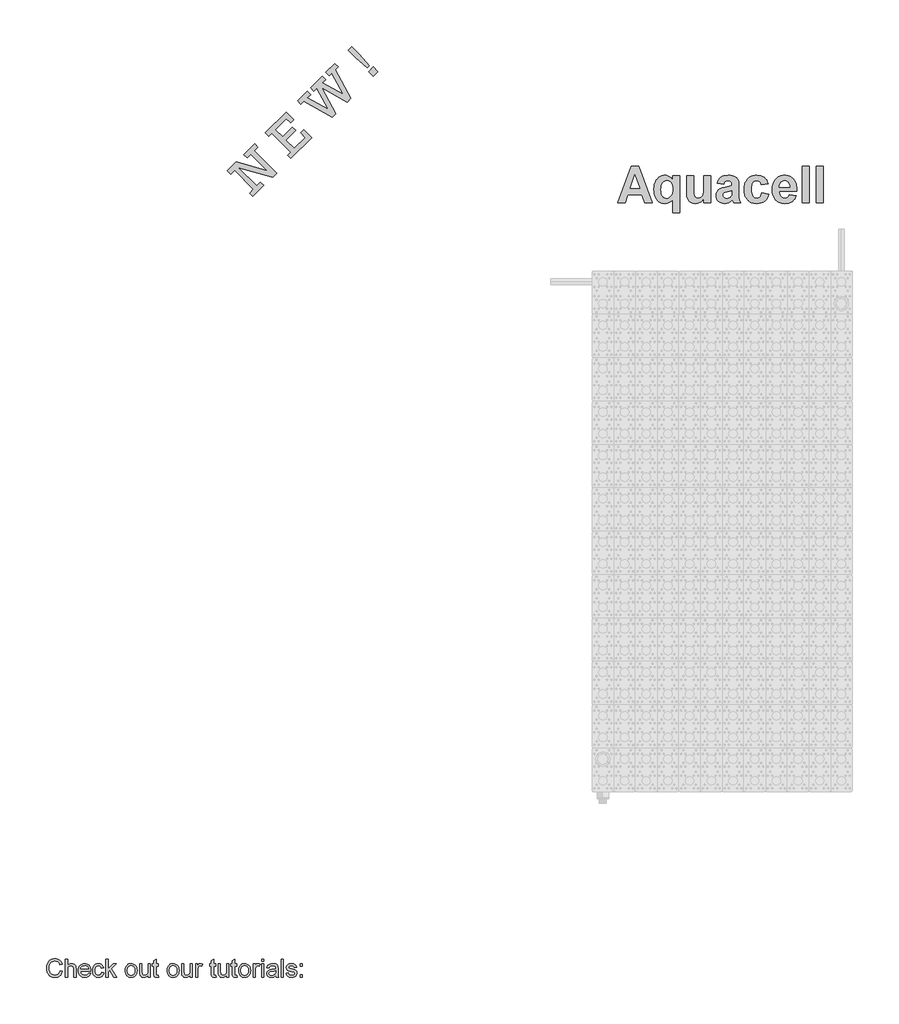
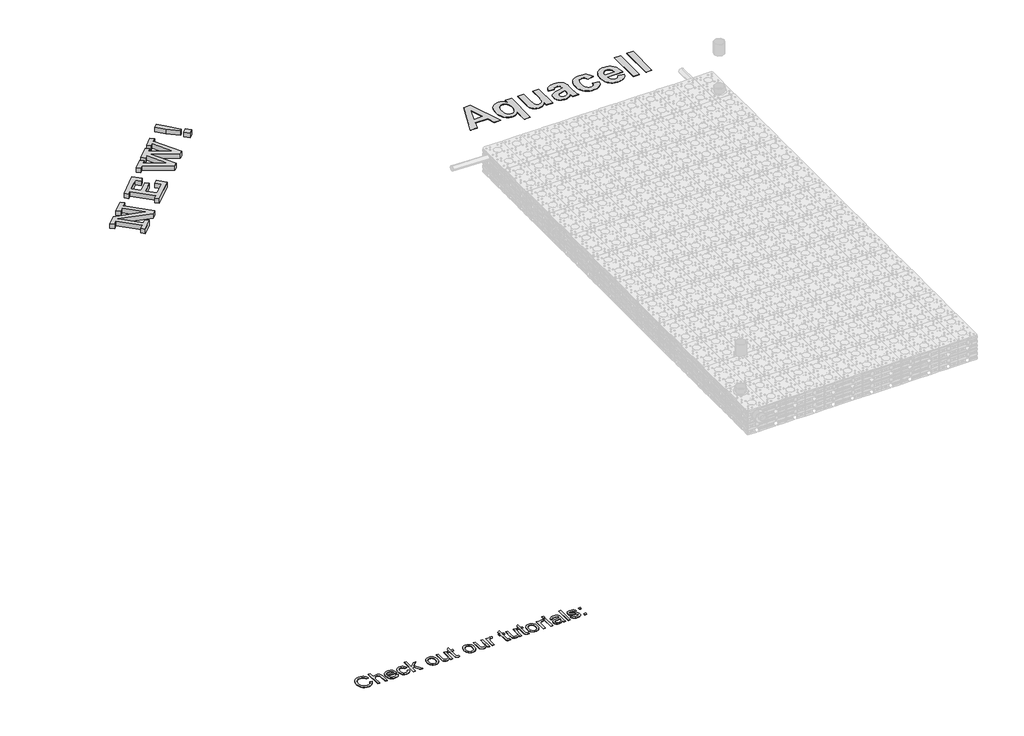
# One storey, part 6 of 6: 3 proxies.
"""IFC4 building model written with IfcOpenShell, lengths in millimetres."""

from ifc_helpers import new_model, si_unit, frame, origin, place, context, project, spatial, polyline, outline, extrude, element, save

model = new_model("IFC4")

# Units and contexts
model_context = context("Model", 3, world=origin())
ifc_project = project(units=[si_unit("LENGTHUNIT", "METRE", prefix="MILLI")], contexts=[model_context])

# Site, building, storey
site = spatial("IfcSite", under=ifc_project)
building = spatial("IfcBuilding", under=site)
storey = spatial("IfcBuildingStorey", under=building, Name="Aquacell", Elevation=-2300.0)

# Proxies
placement = place(None, origin())
element("IfcBuildingElementProxy", 1, Name="Rockwell", ObjectType="Rockwell", at=placement, inside=storey, context=model_context, shape_type="SweptSolid", body=[
    extrude(outline(polyline([(-6881.2842093, 12223.4476129), (-7400.6630269, 12742.8264305), (-7504.5387905, 12638.950667), (-7596.8728025, 12731.284679), (-7349.4465046, 12978.7109769), (-6492.8321352, 12735.2521561), (-6950.5347183, 13192.9547391), (-7054.4104818, 13089.0789756), (-7146.7444939, 13181.4129876), (-6846.6589548, 13481.4985267), (-6754.3249427, 13389.1645147), (-6858.2007063, 13285.2887512), (-6234.9461251, 12662.03417), (-6346.396163, 12550.584132), (-7293.1804661, 12820.0118937), (-6788.9501973, 12315.7816249), (-6685.0744337, 12419.6573884), (-6592.7404217, 12327.3233764), (-6892.8259608, 12027.2378373), (-6985.1599728, 12119.5718493), (-6881.2842093, 12223.4476129)])), frame((0.0, 0.0, -2300.0), z_axis=(0.0, 0.0, 1.0), x_axis=(1.0, 0.0, 0.0)), (0.0, 0.0, 1.0), 150.0),
    extrude(outline(polyline([(-5854.0683255, 13250.6634967), (-6373.4471431, 13770.0423143), (-6454.2394037, 13689.2500538), (-6546.5734157, 13781.5840658), (-5969.4858405, 14358.671641), (-5761.7343135, 14150.9201139), (-5854.0683255, 14058.5861019), (-5969.4858405, 14174.0036169), (-6269.5713796, 13873.9180778), (-6073.361604, 13677.7083023), (-5807.9013195, 13943.1685869), (-5715.5673074, 13850.8345748), (-5981.027592, 13585.3742903), (-5750.1925619, 13354.5392602), (-5450.1070229, 13654.6247993), (-5577.0662894, 13781.5840658), (-5484.7322774, 13873.9180778), (-5265.4389988, 13654.6247993), (-5842.526574, 13077.5372241), (-5934.860586, 13169.8712361), (-5854.0683255, 13250.6634967)])), frame((0.0, 0.0, -2300.0), z_axis=(0.0, 0.0, 1.0), x_axis=(1.0, 0.0, 0.0)), (0.0, 0.0, 1.0), 150.0),
    extrude(outline(polyline([(-4700.2538549, 14219.8099432), (-5484.7322774, 14658.7571801), (-5565.5245379, 14577.9649196), (-5657.8585499, 14670.2989316), (-5392.3982653, 14935.7592162), (-5300.0642533, 14843.4252041), (-5388.0701085, 14755.4193489), (-4807.5560759, 14431.7092872), (-5127.6593402, 15015.8301172), (-5207.7302413, 14935.7592162), (-5300.0642533, 15028.0932282), (-4976.8952112, 15351.2622703), (-4884.5611992, 15258.9282583), (-4970.0422963, 15173.4471612), (-4392.0530218, 14847.2123413), (-4712.1562861, 15431.3331713), (-4780.6854357, 15362.8040218), (-4873.0194477, 15455.1380338), (-4630.6426661, 15697.5148154), (-4538.3086541, 15605.1808034), (-4619.1009146, 15524.3885428), (-4184.8425143, 14735.2212838), (-4284.9311406, 14635.1326575), (-4986.8139039, 15026.4701694), (-4602.5096468, 14317.5541513), (-4700.2538549, 14219.8099432)])), frame((0.0, 0.0, -2300.0), z_axis=(0.0, 0.0, 1.0), x_axis=(1.0, 0.0, 0.0)), (0.0, 0.0, 1.0), 150.0),
    extrude(outline(polyline([(-3675.3823893, 15637.1009599), (-3727.6809508, 15584.8023984), (-4049.407274, 15854.9515195), (-4261.306618, 16066.8508635), (-4157.4308545, 16170.726627), (-3945.5315105, 15958.827283), (-3675.3823893, 15637.1009599)])), frame((0.0, 0.0, -2300.0), z_axis=(0.0, 0.0, 1.0), x_axis=(1.0, 0.0, 0.0)), (0.0, 0.0, 1.0), 150.0),
    extrude(outline(polyline([(-3568.8015278, 15351.2622703), (-3695.7607943, 15478.2215368), (-3568.8015278, 15605.1808034), (-3441.8422613, 15478.2215368), (-3568.8015278, 15351.2622703)])), frame((0.0, 0.0, -2300.0), z_axis=(0.0, 0.0, 1.0), x_axis=(1.0, 0.0, 0.0)), (0.0, 0.0, 1.0), 150.0),
])
element("IfcBuildingElementProxy", 2, Name="Arial", ObjectType="Arial", at=placement, inside=storey, context=model_context, shape_type="SweptSolid", body=[
    extrude(outline(polyline([(4150.7971549, 11845.0603381), (3946.5934505, 11845.0603381), (3866.6326444, 12071.7846492), (3481.2519236, 12071.7846492), (3402.3032796, 11845.0603381), (3195.3161295, 11845.0603381), (3567.7917834, 12865.319738), (3774.7789335, 12865.319738), (4150.7971549, 11845.0603381)]), holes=[polyline([(3804.3846751, 12249.9251793), (3673.0566422, 12622.4008333), (3543.499893, 12249.9251793), (3804.3846751, 12249.9251793)])]), frame((0.0, 0.0, -2300.0), z_axis=(0.0, 0.0, 1.0), x_axis=(1.0, 0.0, 0.0)), (0.0, 0.0, 1.0), 10.0),
    extrude(outline(polyline([(4717.6079326, 11569.752246), (4717.6079326, 11934.6366842), (4697.4595807, 11911.4913836), (4674.970604, 11890.8923033), (4650.1410024, 11872.8394433), (4622.970776, 11857.3328036), (4594.0767109, 11844.8784652), (4564.0755936, 11835.9825092), (4532.9674239, 11830.6449356), (4500.752202, 11828.8657444), (4440.9081177, 11834.8121968), (4413.0736598, 11842.2452622), (4386.6309249, 11852.6515538), (4361.5799128, 11866.0310716), (4337.9206237, 11882.3838156), (4294.777214, 11924.0089821), (4272.4187113, 11953.0809663), (4253.0413423, 11984.6280031), (4236.645107, 12018.6500925), (4223.2300054, 12055.1472346), (4212.7960374, 12094.1194293), (4205.3432032, 12135.5666767), (4199.3809358, 12225.8863294), (4204.8133996, 12310.6549055), (4211.6039793, 12349.3384759), (4221.110791, 12385.5549011), (4233.3338345, 12419.3041813), (4248.2731099, 12450.5863163), (4265.9286172, 12479.4013061), (4286.3003564, 12505.7491509), (4332.3774547, 12549.6991272), (4357.3790447, 12566.9651893), (4383.6893288, 12581.0919674), (4411.3083068, 12592.0794615), (4440.2359788, 12599.9276716), (4470.4723447, 12604.6365976), (4502.0174046, 12606.2062396), (4536.4862688, 12604.2847131), (4568.5354329, 12598.5201336), (4598.1648969, 12588.9125012), (4625.374661, 12575.4618157), (4650.639176, 12558.0890021), (4674.4328929, 12536.7149852), (4696.7558118, 12511.339765), (4717.6079326, 12481.9633415), (4717.6079326, 12590.011646), (4911.9430564, 12590.011646), (4911.9430564, 11569.752246), (4717.6079326, 11569.752246)]), holes=[polyline([(4717.6079326, 12226.1393699), (4714.7533192, 12281.6738578), (4706.1894789, 12329.6013149), (4691.9164117, 12369.9217411), (4671.9341177, 12402.6351366), (4647.6659498, 12427.9312817), (4620.5352609, 12445.9999567), (4590.5420511, 12456.8411618), (4557.6863203, 12460.4548968), (4524.1900807, 12456.7699941), (4493.540547, 12445.7152861), (4465.7377193, 12427.2907728), (4440.7815974, 12401.4964543), (4420.1904246, 12367.7155441), (4405.4824441, 12325.331256), (4396.6576557, 12274.34359), (4393.7160596, 12214.7525462), (4396.5469505, 12155.5410632), (4405.0396231, 12105.1859986), (4419.1940775, 12063.6873523), (4439.0103137, 12031.0451245), (4462.9859035, 12006.3578582), (4489.6184189, 11988.7240966), (4518.9078597, 11978.1438396), (4550.8542261, 11974.6170873), (4583.1010781, 11978.5708455), (4613.2919759, 11990.4321201), (4641.4269193, 12010.2009112), (4667.5059085, 12037.8772187), (4689.425544, 12073.3661524), (4705.0824266, 12116.5728222), (4714.4765561, 12167.497228), (4717.6079326, 12226.1393699)])]), frame((0.0, 0.0, -2300.0), z_axis=(0.0, 0.0, 1.0), x_axis=(1.0, 0.0, 0.0)), (0.0, 0.0, 1.0), 10.0),
    extrude(outline(polyline([(5575.9213961, 11845.0603381), (5575.9213961, 11954.3738452), (5555.0534602, 11926.7054452), (5531.1648531, 11902.1526067), (5504.2555747, 11880.7153296), (5474.325625, 11862.3936141), (5442.4346112, 11847.7251711), (5409.6421406, 11837.2477118), (5375.948213, 11830.9612363), (5341.3528287, 11828.8657444), (5306.7020917, 11830.9216987), (5273.8542684, 11837.0895615), (5242.8093589, 11847.3693329), (5213.5673631, 11861.7610128), (5187.1878883, 11879.8771329), (5164.7305417, 11901.330225), (5146.1953232, 11926.120289), (5131.5822328, 11954.2473249), (5120.5117098, 11986.8974603), (5112.6041934, 12025.2568225), (5107.8596835, 12069.3254115), (5106.2781802, 12119.1032275), (5106.2781802, 12590.011646), (5300.613304, 12590.011646), (5300.613304, 12245.6234904), (5303.2385995, 12118.1226954), (5311.1144858, 12051.9209679), (5325.9806167, 12020.0378616), (5349.5766458, 11995.4929306), (5381.3016017, 11979.8360481), (5420.5545132, 11974.6170873), (5444.4589354, 11976.3567409), (5467.0823399, 11981.5757017), (5488.4247268, 11990.2739698), (5508.4860959, 12002.4515451), (5526.3728981, 12017.2148783), (5541.1915839, 12033.67042), (5552.9421533, 12051.8181702), (5561.6246064, 12071.6581289), (5567.8794519, 12099.8167949), (5572.3471986, 12142.920667), (5575.9213961, 12273.9640293), (5575.9213961, 12590.011646), (5770.2565199, 12590.011646), (5770.2565199, 11845.0603381), (5575.9213961, 11845.0603381)])), frame((0.0, 0.0, -2300.0), z_axis=(0.0, 0.0, 1.0), x_axis=(1.0, 0.0, 0.0)), (0.0, 0.0, 1.0), 10.0),
    extrude(outline(polyline([(6126.5375802, 12363.2873349), (5948.39705, 12395.6765222), (5965.1372623, 12445.8418064), (5987.0173603, 12489.0484762), (6014.0373439, 12525.2965315), (6046.1972132, 12554.5859724), (6085.1259166, 12577.1698393), (6132.4524025, 12593.3011728), (6188.1766707, 12602.9799729), (6252.2987215, 12606.2062396), (6310.4505973, 12604.2530831), (6360.6633266, 12598.3936134), (6402.9369095, 12588.6278306), (6437.2713458, 12574.9557347), (6465.3904743, 12558.28669), (6489.0181334, 12539.5300611), (6508.1543231, 12518.6858478), (6522.7990435, 12495.7540501), (6533.6481561, 12466.7571874), (6541.3975222, 12427.7177787), (6546.0471418, 12378.6358243), (6547.5970151, 12319.5113239), (6547.5970151, 12089.7505265), (6550.1590504, 12004.4758693), (6557.8451564, 11945.0113457), (6572.5531369, 11896.7438654), (6596.180796, 11845.0603381), (6401.8456722, 11845.0603381), (6383.6267544, 11906.8022263), (6376.7946602, 11931.3471573), (6326.5028557, 11886.5906143), (6272.7950041, 11854.5493578), (6244.6284305, 11843.3127769), (6215.5445851, 11835.2866477), (6185.5434678, 11830.4709702), (6154.6250785, 11828.8657444), (6102.142892, 11832.76415), (6055.5280826, 11844.4593668), (6014.7806505, 11863.9513948), (5979.9005955, 11891.240234), (5951.9475249, 11924.4755256), (5931.9810459, 11961.8069106), (5920.0011585, 12003.2343892), (5916.0078627, 12048.7579613), (5917.7870539, 12079.407495), (5923.1246275, 12108.3490051), (5932.0205835, 12135.5824917), (5944.4749219, 12161.1079548), (5960.1397119, 12184.340238), (5978.6670229, 12204.6941853), (6000.0568549, 12222.1697966), (6024.3092078, 12236.767072), (6086.999998, 12261.3752631), (6172.3379153, 12282.5674071), (6282.853365, 12307.5551591), (6353.2618913, 12330.8981476), (6353.2618913, 12351.3944301), (6351.7515556, 12378.754437), (6347.2205487, 12401.876015), (6339.6688705, 12420.7591643), (6329.0965211, 12435.4038847), (6314.3490029, 12446.3637025), (6294.2718187, 12454.1921437), (6268.8649684, 12458.8892085), (6238.128452, 12460.4548968), (6197.8317483, 12455.0777856), (6181.4315592, 12448.3563966), (6167.5301453, 12438.9464521), (6155.4790903, 12426.1520905), (6144.6299778, 12409.2774504), (6126.5375802, 12363.2873349)]), holes=[polyline([(6353.2618913, 12185.1468047), (6243.6953436, 12158.1979887), (6181.7004148, 12142.7308866), (6145.5156196, 12127.4535648), (6130.1275926, 12114.4694228), (6119.1361448, 12099.8088874), (6112.5412761, 12083.4719584), (6110.3429865, 12065.458636), (6112.1063627, 12047.6113714), (6117.3964912, 12031.0134944), (6126.213372, 12015.665005), (6138.5570051, 12001.5659033), (6153.6208239, 11989.7757963), (6170.5982617, 11981.3542913), (6189.4893185, 11976.3013883), (6210.2939942, 11974.6170873), (6234.4119193, 11976.5781513), (6257.9288732, 11982.4613436), (6280.8448558, 11992.2666639), (6303.1598672, 12005.9941125), (6330.3617237, 12032.4368474), (6346.1767565, 12064.1934334), (6351.4906076, 12096.8989213), (6353.2618913, 12149.9741716), (6353.2618913, 12185.1468047)])]), frame((0.0, 0.0, -2300.0), z_axis=(0.0, 0.0, 1.0), x_axis=(1.0, 0.0, 0.0)), (0.0, 0.0, 1.0), 10.0),
    extrude(outline(polyline([(7357.3266976, 12379.4819285), (7162.9915738, 12347.0927412), (7156.9897688, 12373.5591987), (7148.0938128, 12396.5305339), (7136.3037058, 12416.0067469), (7121.6194478, 12431.9878376), (7104.2782643, 12444.442176), (7084.5173807, 12453.338132), (7062.3367971, 12458.6757056), (7037.7365135, 12460.4548968), (7005.1891759, 12457.1179248), (6976.1211455, 12447.107009), (6950.5324223, 12430.4221494), (6928.4230064, 12407.0633458), (6910.5994643, 12375.891916), (6897.8683629, 12335.7691777), (6890.229702, 12286.6951307), (6887.6834817, 12228.6697751), (6890.3324997, 12164.1918862), (6898.2795537, 12109.9305084), (6911.5246438, 12065.8856419), (6930.0677698, 12032.0572866), (6953.0707351, 12006.9271994), (6979.6953429, 11988.9771371), (7009.9415933, 11978.2070997), (7043.8094861, 11974.6170873), (7069.2954116, 11976.665134), (7092.361637, 11982.8092743), (7113.0081624, 11993.0495081), (7131.2349878, 12007.3858353), (7146.994668, 12026.7355281), (7160.2397581, 12052.0158581), (7170.9702579, 12083.2268254), (7179.1861674, 12120.3684301), (7373.5212912, 12087.9792428), (7355.6107665, 12027.7635052), (7330.9788528, 11975.4078389), (7299.6255502, 11930.9122439), (7261.5508586, 11894.2767203), (7216.5966277, 11865.6594184), (7164.6047071, 11845.2184884), (7105.575097, 11832.9539304), (7039.5077972, 11828.8657444), (7000.9724927, 11830.474924), (6964.4417437, 11835.3024628), (6929.9155501, 11843.3483607), (6897.3939119, 11854.6126179), (6866.8768291, 11869.0952342), (6838.3643017, 11886.7962098), (6811.8563298, 11907.7155445), (6787.3529132, 11931.8532384), (6765.3205956, 11958.8336845), (6746.2259203, 11988.2812756), (6730.0688873, 12020.196012), (6716.8494968, 12054.5778934), (6706.5677485, 12091.42692), (6699.2236426, 12130.7430917), (6693.3483579, 12216.7768704), (6699.184105, 12303.7832737), (6706.478789, 12343.4612143), (6716.6913464, 12380.5889808), (6729.8217775, 12415.1665733), (6745.8700821, 12447.1939917), (6764.8362602, 12476.6712361), (6786.7203119, 12503.5983064), (6811.0952313, 12527.6470407), (6837.5340125, 12548.4892772), (6866.0366555, 12566.1250157), (6896.6031603, 12580.5542563), (6929.2335268, 12591.776999), (6963.9277551, 12599.7932438), (7000.6858453, 12604.6029907), (7039.5077972, 12606.2062396), (7101.3287606, 12602.7032098), (7156.4757802, 12592.1941205), (7204.948856, 12574.6789716), (7246.7479878, 12550.1577631), (7282.5057771, 12518.4723448), (7312.8548252, 12479.4645663), (7337.795132, 12433.1344275), (7357.3266976, 12379.4819285)])), frame((0.0, 0.0, -2300.0), z_axis=(0.0, 0.0, 1.0), x_axis=(1.0, 0.0, 0.0)), (0.0, 0.0, 1.0), 10.0),
    extrude(outline(polyline([(7940.332069, 12071.7846492), (8134.6671928, 12039.3954619), (8113.6648291, 11990.9777388), (8087.3486145, 11948.7120634), (8055.7185487, 11912.5984359), (8018.774632, 11882.6368561), (7976.6908295, 11859.1119948), (7929.6411068, 11842.3085223), (7877.6254637, 11832.2264389), (7820.6439003, 11828.8657444), (7775.1084669, 11830.8465773), (7732.6332424, 11836.7890759), (7693.2182268, 11846.6932402), (7656.86342, 11860.5590703), (7623.568822, 11878.3865661), (7593.334433, 11900.1757276), (7566.1602528, 11925.9265548), (7542.0462814, 11955.6390478), (7510.8274065, 12009.7106452), (7488.5282102, 12070.4561864), (7475.1486924, 12137.8756715), (7470.6888531, 12211.9691004), (7476.6036754, 12299.331342), (7483.9972033, 12339.2642999), (7494.3481423, 12376.6984827), (7507.6564924, 12411.6338903), (7523.9222537, 12444.0705227), (7543.1454262, 12474.0083799), (7565.3260098, 12501.4474619), (7589.7681431, 12526.0003005), (7615.7759646, 12547.2794272), (7643.3494744, 12565.2848421), (7672.4886724, 12580.0165452), (7703.1935587, 12591.4745365), (7735.4641333, 12599.658816), (7769.3003961, 12604.5693837), (7804.7023472, 12606.2062396), (7844.2438831, 12604.5258924), (7881.642482, 12599.4848506), (7916.898144, 12591.0831144), (7950.0108691, 12579.3206837), (7980.9806572, 12564.1975586), (8009.8075083, 12545.7137389), (8036.4914225, 12523.8692248), (8061.0323998, 12498.6640162), (8082.9718041, 12469.9874078), (8101.8509996, 12437.7286945), (8117.6699862, 12401.8878763), (8130.428764, 12362.4649531), (8140.1273329, 12319.459925), (8146.7656929, 12272.872792), (8150.3438441, 12222.703554), (8150.8617864, 12168.9522111), (7665.0239769, 12168.9522111), (7668.6456195, 12125.4608707), (7677.4862228, 12087.093601), (7691.545787, 12053.8504019), (7710.8243121, 12025.7312735), (7734.0565954, 12003.368817), (7759.9774342, 11987.3956338), (7788.5868287, 11977.8117239), (7819.8847787, 11974.6170873), (7860.6875635, 11980.3737592), (7878.4794755, 11987.5695992), (7894.5317338, 11997.6437751), (7908.7810784, 12010.9125877), (7921.1642492, 12027.6923375), (7940.332069, 12071.7846492)]), holes=[polyline([(7956.5266626, 12282.3143666), (7953.0631704, 12323.3464694), (7944.697018, 12359.1437962), (7931.4282055, 12389.7063473), (7913.2567327, 12415.0341224), (7891.5268776, 12434.9057112), (7867.5829178, 12449.0997032), (7841.4248535, 12457.6160984), (7813.0526845, 12460.4548968), (7782.9092319, 12457.4658555), (7755.4859649, 12448.4987319), (7730.7828836, 12433.5535259), (7708.7999879, 12412.6302374), (7690.8973707, 12386.456358), (7678.1820843, 12356.0124197), (7670.6541286, 12321.2984226), (7668.3135038, 12282.3143666), (7956.5266626, 12282.3143666)])]), frame((0.0, 0.0, -2300.0), z_axis=(0.0, 0.0, 1.0), x_axis=(1.0, 0.0, 0.0)), (0.0, 0.0, 1.0), 10.0),
    extrude(outline(polyline([(8296.6131293, 11845.0603381), (8296.6131293, 12865.319738), (8490.9482531, 12865.319738), (8490.9482531, 11845.0603381), (8296.6131293, 11845.0603381)])), frame((0.0, 0.0, -2300.0), z_axis=(0.0, 0.0, 1.0), x_axis=(1.0, 0.0, 0.0)), (0.0, 0.0, 1.0), 10.0),
    extrude(outline(polyline([(8685.2833769, 11845.0603381), (8685.2833769, 12865.319738), (8879.6185007, 12865.319738), (8879.6185007, 11845.0603381), (8685.2833769, 11845.0603381)])), frame((0.0, 0.0, -2300.0), z_axis=(0.0, 0.0, 1.0), x_axis=(1.0, 0.0, 0.0)), (0.0, 0.0, 1.0), 10.0),
])
element("IfcBuildingElementProxy", 3, Name="Arial 500", ObjectType="Arial 500", at=placement, inside=storey, context=model_context, shape_type="SweptSolid", body=[
    extrude(outline(polyline([(-12225.5004482, -9392.8896774), (-12162.7152543, -9409.0764852), (-12175.1389359, -9448.121794), (-12191.6859615, -9482.2390169), (-12212.3563311, -9511.428154), (-12237.1500447, -9535.6892052), (-12265.5076152, -9554.7615873), (-12296.8695552, -9568.3847175), (-12331.235865, -9576.5585956), (-12368.6065443, -9579.2832216), (-12406.8930965, -9577.2215496), (-12441.4318509, -9571.0365335), (-12472.2228075, -9560.7281735), (-12499.2659663, -9546.2964694), (-12522.9330413, -9527.9560191), (-12543.5957467, -9505.9214204), (-12561.2540824, -9480.1926733), (-12575.9080486, -9450.7697779), (-12587.4158572, -9418.9249927), (-12595.6357206, -9385.9305763), (-12600.5676386, -9351.7865286), (-12602.2116112, -9316.4928497), (-12600.3530407, -9278.6239968), (-12594.7773293, -9243.2536758), (-12585.4844768, -9210.3818867), (-12572.4744833, -9180.0086295), (-12556.0385887, -9152.6359098), (-12536.468033, -9128.7657332), (-12513.7628161, -9108.3980999), (-12487.9229381, -9091.5330097), (-12459.8259507, -9078.3084183), (-12430.3494058, -9068.8622817), (-12399.4933035, -9063.1945997), (-12367.2576437, -9061.3053724), (-12331.346996, -9063.7502548), (-12298.4177253, -9071.0849021), (-12268.4698316, -9083.3093142), (-12241.503315, -9100.4234912), (-12217.9626994, -9121.9752448), (-12198.292509, -9147.5123866), (-12182.4927437, -9177.0349167), (-12170.5634036, -9210.5428351), (-12233.3485974, -9225.5033696), (-12243.235426, -9200.8131227), (-12255.1149488, -9179.7173896), (-12268.9871657, -9162.2161701), (-12284.8520767, -9148.3094642), (-12302.8016524, -9137.7136964), (-12322.9278632, -9130.1452907), (-12345.2307092, -9125.6042474), (-12369.7101903, -9124.0905662), (-12397.8761555, -9125.7690278), (-12423.6355594, -9130.8044126), (-12446.9884019, -9139.1967207), (-12467.934683, -9150.9459519), (-12486.2099875, -9165.5232759), (-12501.5499003, -9182.3998625), (-12513.9544213, -9201.5757115), (-12523.4235506, -9223.0508229), (-12535.4257007, -9269.0054155), (-12539.4264174, -9316.3702224), (-12534.6899367, -9374.3729503), (-12520.4804946, -9424.527529), (-12509.6892895, -9446.1827493), (-12496.2615966, -9464.9179063), (-12480.1974162, -9480.733), (-12461.4967481, -9493.6280304), (-12419.8187837, -9510.7805284), (-12374.8605382, -9516.4980277), (-12347.5644606, -9514.5513189), (-12322.4526823, -9508.7111922), (-12299.5252034, -9498.9776477), (-12278.7820238, -9485.3506855), (-12260.7136529, -9467.8916191), (-12245.8106, -9446.6617623), (-12234.0728651, -9421.6611151), (-12225.5004482, -9392.8896774)])), frame((0.0, 0.0, -2300.0), z_axis=(0.0, 0.0, 1.0), x_axis=(1.0, 0.0, 0.0)), (0.0, 0.0, 1.0), 10.0),
    extrude(outline(polyline([(-12084.233762, -9571.4350724), (-12084.233762, -9069.1535216), (-12021.4485682, -9069.1535216), (-12021.4485682, -9253.8302832), (-11998.3869656, -9227.9712446), (-11972.489606, -9209.5005028), (-11943.7564893, -9198.4180577), (-11912.1876156, -9194.7239093), (-11874.2651133, -9198.7552828), (-11841.6768999, -9210.8494034), (-11816.0171307, -9230.0559093), (-11798.8799611, -9255.4244385), (-11789.2230587, -9290.2812575), (-11786.0040913, -9337.9526328), (-11786.0040913, -9571.4350724), (-11848.7892851, -9571.4350724), (-11848.7892851, -9344.4518813), (-11853.7863489, -9305.1498215), (-11860.0326786, -9290.1433018), (-11868.7775402, -9278.2331222), (-11879.814, -9269.1663639), (-11892.9351245, -9262.6901079), (-11925.4313674, -9257.5091031), (-11951.9648563, -9261.0039821), (-11976.8735331, -9271.488619), (-11997.5055817, -9287.9513382), (-12011.209186, -9309.3804645), (-12018.8887226, -9337.8606623), (-12021.4485682, -9375.4765963), (-12021.4485682, -9571.4350724), (-12084.233762, -9571.4350724)])), frame((0.0, 0.0, -2300.0), z_axis=(0.0, 0.0, 1.0), x_axis=(1.0, 0.0, 0.0)), (0.0, 0.0, 1.0), 10.0),
    extrude(outline(polyline([(-11441.4212891, -9461.5609831), (-11379.8623686, -9469.4091324), (-11389.300841, -9494.0648902), (-11402.0425872, -9515.7929206), (-11418.0876072, -9534.5932234), (-11437.4359008, -9550.4657986), (-11459.8881989, -9563.0734212), (-11485.2452318, -9572.0788659), (-11513.5069997, -9577.4821327), (-11544.6735024, -9579.2832216), (-11583.6306729, -9576.1753852), (-11618.341872, -9566.8518758), (-11648.8070997, -9551.3126936), (-11675.0263561, -9529.5578386), (-11696.1105929, -9502.1927831), (-11711.1707621, -9469.8229996), (-11720.2068636, -9432.4484882), (-11723.2188974, -9390.0692487), (-11720.1762068, -9346.2529703), (-11711.0481348, -9307.633025), (-11695.8346814, -9274.2094129), (-11674.5358467, -9245.982134), (-11648.3855682, -9223.5566607), (-11618.6177835, -9207.5384655), (-11585.2324924, -9197.9275483), (-11548.2296951, -9194.7239093), (-11512.4186821, -9197.9198841), (-11480.0335702, -9207.5078086), (-11451.0743594, -9223.4876828), (-11425.5410497, -9245.8595066), (-11404.6982354, -9274.0254719), (-11389.8105109, -9307.3877703), (-11380.8778762, -9345.9464019), (-11377.9003313, -9389.7013667), (-11378.2682133, -9406.6239385), (-11660.4337036, -9406.6239385), (-11656.7970368, -9431.6782352), (-11649.5658563, -9453.6208634), (-11638.7401622, -9472.451823), (-11624.3199544, -9488.1711141), (-11607.1023106, -9500.5641388), (-11587.8843085, -9509.4162993), (-11566.665948, -9514.7275956), (-11543.4472291, -9516.4980277), (-11510.0312812, -9513.2177466), (-11481.8883086, -9503.3769033), (-11459.0183112, -9486.362361), (-11441.4212891, -9461.5609831)]), holes=[polyline([(-11660.4337036, -9343.8387447), (-11440.6855251, -9343.8387447), (-11449.1774679, -9310.6680514), (-11465.8241281, -9286.9396628), (-11482.9459693, -9274.0637929), (-11502.4283867, -9264.866743), (-11524.2713801, -9259.3485131), (-11548.4749497, -9257.5091031), (-11590.7967076, -9263.3798866), (-11609.2099679, -9270.718366), (-11625.7914824, -9280.9922372), (-11639.7058524, -9293.7263191), (-11650.1176793, -9308.4454311), (-11657.026963, -9325.1495729), (-11660.4337036, -9343.8387447)])]), frame((0.0, 0.0, -2300.0), z_axis=(0.0, 0.0, 1.0), x_axis=(1.0, 0.0, 0.0)), (0.0, 0.0, 1.0), 10.0),
    extrude(outline(polyline([(-11079.6706605, -9438.0165354), (-11016.8854667, -9445.8646847), (-11023.7142762, -9475.4906816), (-11034.3905183, -9501.7061059), (-11048.9141929, -9524.5109575), (-11067.2853, -9543.9052364), (-11088.7297547, -9559.3831049), (-11112.4734718, -9570.4387253), (-11138.5164513, -9577.0720975), (-11166.8586934, -9579.2832216), (-11202.0718981, -9576.1983778), (-11233.6446039, -9566.9438463), (-11261.5768108, -9551.5196273), (-11285.8685188, -9529.9257206), (-11305.5310451, -9502.5683293), (-11319.5757066, -9469.8536564), (-11328.0025036, -9431.781702), (-11330.8114359, -9388.3524661), (-11326.0136416, -9332.4803881), (-11311.6202585, -9284.0579205), (-11300.7677396, -9263.1078073), (-11287.4013605, -9244.9551301), (-11271.521121, -9229.5998889), (-11253.1270213, -9217.0420837), (-11212.1235072, -9200.3034529), (-11167.7170847, -9194.7239093), (-11139.8615199, -9196.6399614), (-11114.6654353, -9202.3881175), (-11092.128831, -9211.9683778), (-11072.251707, -9225.3807422), (-11055.3712883, -9242.3186424), (-11041.8248003, -9262.4755101), (-11031.6122428, -9285.8513452), (-11024.7336159, -9312.4461478), (-11087.5188098, -9320.294297), (-11098.9078232, -9292.9024168), (-11116.642801, -9273.2667153), (-11139.7427247, -9261.4485062), (-11167.2265754, -9257.5091031), (-11188.559899, -9259.4481478), (-11207.8008938, -9265.2652819), (-11224.9495597, -9274.9605053), (-11240.0058968, -9288.5338181), (-11252.2647978, -9306.2994528), (-11261.0211557, -9328.5716419), (-11266.2749705, -9355.3503854), (-11268.0262421, -9386.6356834), (-11266.3132915, -9418.3923303), (-11261.1744399, -9445.4814743), (-11252.6096872, -9467.9031154), (-11240.6190334, -9485.6572538), (-11225.8616005, -9499.1500924), (-11208.9965103, -9508.7878343), (-11190.0237628, -9514.5704794), (-11168.943358, -9516.4980277), (-11136.4317867, -9511.684905), (-11109.7756705, -9497.2455367), (-11098.9959616, -9486.3240399), (-11090.3852236, -9472.8120408), (-11079.6706605, -9438.0165354)])), frame((0.0, 0.0, -2300.0), z_axis=(0.0, 0.0, 1.0), x_axis=(1.0, 0.0, 0.0)), (0.0, 0.0, 1.0), 10.0),
    extrude(outline(polyline([(-10961.9484221, -9571.4350724), (-10961.9484221, -9069.1535216), (-10899.1632282, -9069.1535216), (-10899.1632282, -9339.0562787), (-10758.3870514, -9202.5720585), (-10671.5669006, -9202.5720585), (-10814.05986, -9340.7730614), (-10663.7187513, -9571.4350724), (-10737.0498957, -9571.4350724), (-10859.0640908, -9384.4283915), (-10899.1632282, -9423.3012556), (-10899.1632282, -9571.4350724), (-10961.9484221, -9571.4350724)])), frame((0.0, 0.0, -2300.0), z_axis=(0.0, 0.0, 1.0), x_axis=(1.0, 0.0, 0.0)), (0.0, 0.0, 1.0), 10.0),
    extrude(outline(polyline([(-10428.2742744, -9387.0035654), (-10424.8790302, -9339.2325555), (-10414.6932974, -9298.0680931), (-10397.7170762, -9263.5101782), (-10373.9503665, -9235.5588108), (-10350.0227084, -9217.6935414), (-10323.6118468, -9204.9326347), (-10294.7177817, -9197.2760906), (-10263.3405132, -9194.7239093), (-10228.7021241, -9197.8317457), (-10197.3823372, -9207.1552551), (-10169.3811524, -9222.6944372), (-10144.6985698, -9244.4492923), (-10124.5531985, -9271.6840563), (-10110.1636475, -9303.6629651), (-10101.5299169, -9340.3860189), (-10098.6520067, -9381.8532175), (-10103.741041, -9445.2822048), (-10110.1023338, -9471.3175202), (-10119.0081438, -9493.5667167), (-10130.3473399, -9512.7847189), (-10144.0087911, -9529.7264512), (-10159.9924973, -9544.3919136), (-10178.2984587, -9556.7811062), (-10219.0260612, -9573.6576927), (-10263.3405132, -9579.2832216), (-10298.4847401, -9576.1868815), (-10330.0957669, -9566.8978611), (-10358.1735938, -9551.4161605), (-10382.7182207, -9529.7417796), (-10402.6489942, -9502.2426004), (-10416.885261, -9469.286505), (-10425.427021, -9430.8734934), (-10428.2742744, -9387.0035654)]), holes=[polyline([(-10365.4890806, -9386.8809381), (-10363.6726632, -9417.3346695), (-10358.2234112, -9443.703378), (-10349.1413244, -9465.9870634), (-10336.4264029, -9484.1857258), (-10320.9600307, -9498.3223579), (-10303.6235917, -9508.4199523), (-10284.4170859, -9514.4785089), (-10263.3405132, -9516.4980277), (-10242.3712395, -9514.4670126), (-10223.2413758, -9508.373967), (-10205.950922, -9498.2188911), (-10190.4998782, -9484.0017848), (-10177.7849567, -9465.6230135), (-10168.70287, -9442.9829424), (-10163.2536179, -9416.0815715), (-10161.4372006, -9384.9189008), (-10163.2651142, -9355.4308596), (-10168.7488552, -9329.7519299), (-10177.8884235, -9307.8821118), (-10190.6838192, -9289.8214051), (-10206.1923445, -9275.684773), (-10223.471302, -9265.5871786), (-10242.5206916, -9259.528622), (-10263.3405132, -9257.5091031), (-10284.4170859, -9259.5209578), (-10303.6235917, -9265.5565218), (-10320.9600307, -9275.6157951), (-10336.4264029, -9289.6987777), (-10349.1413244, -9307.8437907), (-10358.2234112, -9330.0891551), (-10363.6726632, -9356.4348709), (-10365.4890806, -9386.8809381)])]), frame((0.0, 0.0, -2300.0), z_axis=(0.0, 0.0, 1.0), x_axis=(1.0, 0.0, 0.0)), (0.0, 0.0, 1.0), 10.0),
    extrude(outline(polyline([(-9792.5741867, -9571.4350724), (-9792.5741867, -9508.0367419), (-9815.2908999, -9539.2070767), (-9841.7477468, -9561.4716017), (-9871.9447272, -9574.8303166), (-9905.8818413, -9579.2832216), (-9936.4620321, -9576.1562246), (-9964.9269015, -9566.7752338), (-9988.8085743, -9552.6730906), (-10005.6391756, -9535.3826368), (-10016.9668754, -9514.3827063), (-10024.3398437, -9489.1521328), (-10028.0186637, -9430.7815229), (-10028.0186637, -9202.5720585), (-9965.2334698, -9202.5720585), (-9965.2334698, -9401.2283359), (-9961.4320225, -9465.2398031), (-9952.2809579, -9486.5922872), (-9936.5999879, -9502.8250803), (-9915.4314447, -9513.0797909), (-9889.8176608, -9516.4980277), (-9862.7323489, -9513.0031488), (-9837.3944765, -9502.5185119), (-9816.5018448, -9486.0098074), (-9802.7522553, -9464.4427254), (-9795.1187039, -9434.9048669), (-9792.5741867, -9394.4838327), (-9792.5741867, -9202.5720585), (-9729.7889929, -9202.5720585), (-9729.7889929, -9571.4350724), (-9792.5741867, -9571.4350724)])), frame((0.0, 0.0, -2300.0), z_axis=(0.0, 0.0, 1.0), x_axis=(1.0, 0.0, 0.0)), (0.0, 0.0, 1.0), 10.0),
    extrude(outline(polyline([(-9510.0408144, -9519.0732017), (-9502.1926652, -9573.2744823), (-9549.1589333, -9579.2832216), (-9579.2946, -9576.6773908), (-9601.7660586, -9568.8598984), (-9617.646298, -9556.8117631), (-9628.0083076, -9541.5140034), (-9633.7104785, -9515.2410976), (-9635.6112021, -9470.2675237), (-9635.6112021, -9265.3572524), (-9682.7000975, -9265.3572524), (-9682.7000975, -9202.5720585), (-9635.6112021, -9202.5720585), (-9635.6112021, -9112.931479), (-9572.8260083, -9076.0206522), (-9572.8260083, -9202.5720585), (-9510.0408144, -9202.5720585), (-9510.0408144, -9265.3572524), (-9572.8260083, -9265.3572524), (-9572.8260083, -9468.4281137), (-9569.5150703, -9500.8017293), (-9558.7851788, -9512.2673848), (-9537.3867094, -9516.4980277), (-9510.0408144, -9519.0732017)])), frame((0.0, 0.0, -2300.0), z_axis=(0.0, 0.0, 1.0), x_axis=(1.0, 0.0, 0.0)), (0.0, 0.0, 1.0), 10.0),
    extrude(outline(polyline([(-9266.7481883, -9387.0035654), (-9263.3529441, -9339.2325555), (-9253.1672113, -9298.0680931), (-9236.1909901, -9263.5101782), (-9212.4242803, -9235.5588108), (-9188.4966222, -9217.6935414), (-9162.0857607, -9204.9326347), (-9133.1916956, -9197.2760906), (-9101.8144271, -9194.7239093), (-9067.176038, -9197.8317457), (-9035.8562511, -9207.1552551), (-9007.8550663, -9222.6944372), (-8983.1724837, -9244.4492923), (-8963.0271123, -9271.6840563), (-8948.6375614, -9303.6629651), (-8940.0038308, -9340.3860189), (-8937.1259206, -9381.8532175), (-8942.2149549, -9445.2822048), (-8948.5762477, -9471.3175202), (-8957.4820577, -9493.5667167), (-8968.8212538, -9512.7847189), (-8982.4827049, -9529.7264512), (-8998.4664112, -9544.3919136), (-9016.7723726, -9556.7811062), (-9057.4999751, -9573.6576927), (-9101.8144271, -9579.2832216), (-9136.958654, -9576.1868815), (-9168.5696808, -9566.8978611), (-9196.6475077, -9551.4161605), (-9221.1921346, -9529.7417796), (-9241.1229081, -9502.2426004), (-9255.3591749, -9469.286505), (-9263.9009349, -9430.8734934), (-9266.7481883, -9387.0035654)]), holes=[polyline([(-9203.9629945, -9386.8809381), (-9202.1465771, -9417.3346695), (-9196.6973251, -9443.703378), (-9187.6152383, -9465.9870634), (-9174.9003168, -9484.1857258), (-9159.4339446, -9498.3223579), (-9142.0975056, -9508.4199523), (-9122.8909998, -9514.4785089), (-9101.8144271, -9516.4980277), (-9080.8451534, -9514.4670126), (-9061.7152897, -9508.373967), (-9044.4248359, -9498.2188911), (-9028.9737921, -9484.0017848), (-9016.2588706, -9465.6230135), (-9007.1767839, -9442.9829424), (-9001.7275318, -9416.0815715), (-8999.9111145, -9384.9189008), (-9001.7390281, -9355.4308596), (-9007.2227691, -9329.7519299), (-9016.3623374, -9307.8821118), (-9029.1577331, -9289.8214051), (-9044.6662584, -9275.684773), (-9061.9452159, -9265.5871786), (-9080.9946055, -9259.528622), (-9101.8144271, -9257.5091031), (-9122.8909998, -9259.5209578), (-9142.0975056, -9265.5565218), (-9159.4339446, -9275.6157951), (-9174.9003168, -9289.6987777), (-9187.6152383, -9307.8437907), (-9196.6973251, -9330.0891551), (-9202.1465771, -9356.4348709), (-9203.9629945, -9386.8809381)])]), frame((0.0, 0.0, -2300.0), z_axis=(0.0, 0.0, 1.0), x_axis=(1.0, 0.0, 0.0)), (0.0, 0.0, 1.0), 10.0),
    extrude(outline(polyline([(-8631.0481006, -9571.4350724), (-8631.0481006, -9508.0367419), (-8653.7648138, -9539.2070767), (-8680.2216607, -9561.4716017), (-8710.4186411, -9574.8303166), (-8744.3557552, -9579.2832216), (-8774.935946, -9576.1562246), (-8803.4008154, -9566.7752338), (-8827.2824882, -9552.6730906), (-8844.1130895, -9535.3826368), (-8855.4407893, -9514.3827063), (-8862.8137576, -9489.1521328), (-8866.4925776, -9430.7815229), (-8866.4925776, -9202.5720585), (-8803.7073837, -9202.5720585), (-8803.7073837, -9401.2283359), (-8799.9059364, -9465.2398031), (-8790.7548718, -9486.5922872), (-8775.0739017, -9502.8250803), (-8753.9053586, -9513.0797909), (-8728.2915747, -9516.4980277), (-8701.2062628, -9513.0031488), (-8675.8683904, -9502.5185119), (-8654.9757587, -9486.0098074), (-8641.2261692, -9464.4427254), (-8633.5926178, -9434.9048669), (-8631.0481006, -9394.4838327), (-8631.0481006, -9202.5720585), (-8568.2629068, -9202.5720585), (-8568.2629068, -9571.4350724), (-8631.0481006, -9571.4350724)])), frame((0.0, 0.0, -2300.0), z_axis=(0.0, 0.0, 1.0), x_axis=(1.0, 0.0, 0.0)), (0.0, 0.0, 1.0), 10.0),
    extrude(outline(polyline([(-8481.9332653, -9571.4350724), (-8481.9332653, -9202.5720585), (-8426.9962206, -9202.5720585), (-8426.9962206, -9257.1412211), (-8406.7013972, -9225.5033696), (-8388.0007292, -9206.8640151), (-8369.2387474, -9197.7589358), (-8348.759983, -9194.7239093), (-8317.4900134, -9199.5676889), (-8285.7295345, -9214.0990277), (-8306.6988082, -9270.384973), (-8328.7717279, -9260.7280706), (-8350.8446476, -9257.5091031), (-8369.591301, -9260.6054433), (-8386.3452602, -9269.8944636), (-8399.8802519, -9284.6710571), (-8408.9700029, -9304.2301165), (-8416.6035543, -9339.3015334), (-8419.1480714, -9377.5612609), (-8419.1480714, -9571.4350724), (-8481.9332653, -9571.4350724)])), frame((0.0, 0.0, -2300.0), z_axis=(0.0, 0.0, 1.0), x_axis=(1.0, 0.0, 0.0)), (0.0, 0.0, 1.0), 10.0),
    extrude(outline(polyline([(-7916.8665207, -9519.0732017), (-7909.0183714, -9573.2744823), (-7955.9846395, -9579.2832216), (-7986.1203063, -9576.6773908), (-8008.5917648, -9568.8598984), (-8024.4720043, -9556.8117631), (-8034.8340138, -9541.5140034), (-8040.5361847, -9515.2410976), (-8042.4369084, -9470.2675237), (-8042.4369084, -9265.3572524), (-8089.5258037, -9265.3572524), (-8089.5258037, -9202.5720585), (-8042.4369084, -9202.5720585), (-8042.4369084, -9112.931479), (-7979.6517145, -9076.0206522), (-7979.6517145, -9202.5720585), (-7916.8665207, -9202.5720585), (-7916.8665207, -9265.3572524), (-7979.6517145, -9265.3572524), (-7979.6517145, -9468.4281137), (-7976.3407766, -9500.8017293), (-7965.610885, -9512.2673848), (-7944.2124156, -9516.4980277), (-7916.8665207, -9519.0732017)])), frame((0.0, 0.0, -2300.0), z_axis=(0.0, 0.0, 1.0), x_axis=(1.0, 0.0, 0.0)), (0.0, 0.0, 1.0), 10.0),
    extrude(outline(polyline([(-7618.6368499, -9571.4350724), (-7618.6368499, -9508.0367419), (-7641.3535631, -9539.2070767), (-7667.8104099, -9561.4716017), (-7698.0073904, -9574.8303166), (-7731.9445044, -9579.2832216), (-7762.5246953, -9576.1562246), (-7790.9895647, -9566.7752338), (-7814.8712375, -9552.6730906), (-7831.7018388, -9535.3826368), (-7843.0295386, -9514.3827063), (-7850.4025069, -9489.1521328), (-7854.0813268, -9430.7815229), (-7854.0813268, -9202.5720585), (-7791.296133, -9202.5720585), (-7791.296133, -9401.2283359), (-7787.4946857, -9465.2398031), (-7778.3436211, -9486.5922872), (-7762.662651, -9502.8250803), (-7741.4941079, -9513.0797909), (-7715.880324, -9516.4980277), (-7688.7950121, -9513.0031488), (-7663.4571397, -9502.5185119), (-7642.564508, -9486.0098074), (-7628.8149184, -9464.4427254), (-7621.181367, -9434.9048669), (-7618.6368499, -9394.4838327), (-7618.6368499, -9202.5720585), (-7555.8516561, -9202.5720585), (-7555.8516561, -9571.4350724), (-7618.6368499, -9571.4350724)])), frame((0.0, 0.0, -2300.0), z_axis=(0.0, 0.0, 1.0), x_axis=(1.0, 0.0, 0.0)), (0.0, 0.0, 1.0), 10.0),
    extrude(outline(polyline([(-7336.1034776, -9519.0732017), (-7328.2553284, -9573.2744823), (-7375.2215964, -9579.2832216), (-7405.3572632, -9576.6773908), (-7427.8287217, -9568.8598984), (-7443.7089612, -9556.8117631), (-7454.0709707, -9541.5140034), (-7459.7731417, -9515.2410976), (-7461.6738653, -9470.2675237), (-7461.6738653, -9265.3572524), (-7508.7627607, -9265.3572524), (-7508.7627607, -9202.5720585), (-7461.6738653, -9202.5720585), (-7461.6738653, -9112.931479), (-7398.8886715, -9076.0206522), (-7398.8886715, -9202.5720585), (-7336.1034776, -9202.5720585), (-7336.1034776, -9265.3572524), (-7398.8886715, -9265.3572524), (-7398.8886715, -9468.4281137), (-7395.5777335, -9500.8017293), (-7384.847842, -9512.2673848), (-7363.4493726, -9516.4980277), (-7336.1034776, -9519.0732017)])), frame((0.0, 0.0, -2300.0), z_axis=(0.0, 0.0, 1.0), x_axis=(1.0, 0.0, 0.0)), (0.0, 0.0, 1.0), 10.0),
    extrude(outline(polyline([(-7289.0145822, -9387.0035654), (-7285.619338, -9339.2325555), (-7275.4336052, -9298.0680931), (-7258.457384, -9263.5101782), (-7234.6906743, -9235.5588108), (-7210.7630162, -9217.6935414), (-7184.3521546, -9204.9326347), (-7155.4580896, -9197.2760906), (-7124.0808211, -9194.7239093), (-7089.442432, -9197.8317457), (-7058.122645, -9207.1552551), (-7030.1214602, -9222.6944372), (-7005.4388776, -9244.4492923), (-6985.2935063, -9271.6840563), (-6970.9039553, -9303.6629651), (-6962.2702247, -9340.3860189), (-6959.3923146, -9381.8532175), (-6964.4813488, -9445.2822048), (-6970.8426417, -9471.3175202), (-6979.7484516, -9493.5667167), (-6991.0876477, -9512.7847189), (-7004.7490989, -9529.7264512), (-7020.7328051, -9544.3919136), (-7039.0387665, -9556.7811062), (-7079.7663691, -9573.6576927), (-7124.0808211, -9579.2832216), (-7159.2250479, -9576.1868815), (-7190.8360748, -9566.8978611), (-7218.9139016, -9551.4161605), (-7243.4585285, -9529.7417796), (-7263.389302, -9502.2426004), (-7277.6255688, -9469.286505), (-7286.1673289, -9430.8734934), (-7289.0145822, -9387.0035654)]), holes=[polyline([(-7226.2293884, -9386.8809381), (-7224.412971, -9417.3346695), (-7218.963719, -9443.703378), (-7209.8816322, -9465.9870634), (-7197.1667108, -9484.1857258), (-7181.7003386, -9498.3223579), (-7164.3638995, -9508.4199523), (-7145.1573937, -9514.4785089), (-7124.0808211, -9516.4980277), (-7103.1115473, -9514.4670126), (-7083.9816836, -9508.373967), (-7066.6912298, -9498.2188911), (-7051.240186, -9484.0017848), (-7038.5252646, -9465.6230135), (-7029.4431778, -9442.9829424), (-7023.9939257, -9416.0815715), (-7022.1775084, -9384.9189008), (-7024.0054221, -9355.4308596), (-7029.4891631, -9329.7519299), (-7038.6287314, -9307.8821118), (-7051.424127, -9289.8214051), (-7066.9326524, -9275.684773), (-7084.2116098, -9265.5871786), (-7103.2609994, -9259.528622), (-7124.0808211, -9257.5091031), (-7145.1573937, -9259.5209578), (-7164.3638995, -9265.5565218), (-7181.7003386, -9275.6157951), (-7197.1667108, -9289.6987777), (-7209.8816322, -9307.8437907), (-7218.963719, -9330.0891551), (-7224.412971, -9356.4348709), (-7226.2293884, -9386.8809381)])]), frame((0.0, 0.0, -2300.0), z_axis=(0.0, 0.0, 1.0), x_axis=(1.0, 0.0, 0.0)), (0.0, 0.0, 1.0), 10.0),
    extrude(outline(polyline([(-6888.7589715, -9571.4350724), (-6888.7589715, -9202.5720585), (-6833.8219269, -9202.5720585), (-6833.8219269, -9257.1412211), (-6813.5271035, -9225.5033696), (-6794.8264354, -9206.8640151), (-6776.0644536, -9197.7589358), (-6755.5856892, -9194.7239093), (-6724.3157196, -9199.5676889), (-6692.5552407, -9214.0990277), (-6713.5245144, -9270.384973), (-6735.5974342, -9260.7280706), (-6757.6703539, -9257.5091031), (-6776.4170072, -9260.6054433), (-6793.1709664, -9269.8944636), (-6806.7059581, -9284.6710571), (-6815.7957091, -9304.2301165), (-6823.4292605, -9339.3015334), (-6825.9737776, -9377.5612609), (-6825.9737776, -9571.4350724), (-6888.7589715, -9571.4350724)])), frame((0.0, 0.0, -2300.0), z_axis=(0.0, 0.0, 1.0), x_axis=(1.0, 0.0, 0.0)), (0.0, 0.0, 1.0), 10.0),
    extrude(outline(polyline([(-6653.3144946, -9131.9387155), (-6653.3144946, -9069.1535216), (-6590.5293007, -9069.1535216), (-6590.5293007, -9131.9387155), (-6653.3144946, -9131.9387155)])), frame((0.0, 0.0, -2300.0), z_axis=(0.0, 0.0, 1.0), x_axis=(1.0, 0.0, 0.0)), (0.0, 0.0, 1.0), 10.0),
    extrude(outline(polyline([(-6653.3144946, -9571.4350724), (-6653.3144946, -9202.5720585), (-6590.5293007, -9202.5720585), (-6590.5293007, -9571.4350724), (-6653.3144946, -9571.4350724)])), frame((0.0, 0.0, -2300.0), z_axis=(0.0, 0.0, 1.0), x_axis=(1.0, 0.0, 0.0)), (0.0, 0.0, 1.0), 10.0),
    extrude(outline(polyline([(-6260.907033, -9524.346177), (-6290.9047441, -9550.0672598), (-6321.7915032, -9566.8978611), (-6354.2724177, -9576.1868815), (-6389.0525947, -9579.2832216), (-6417.0077942, -9577.420819), (-6441.5217643, -9571.8336112), (-6462.5945048, -9562.5215982), (-6480.2260158, -9549.48478), (-6494.1480501, -9533.5508911), (-6504.0923603, -9515.5476659), (-6510.0589464, -9495.4751046), (-6512.0478084, -9473.333207), (-6509.0434388, -9447.3055558), (-6500.0303299, -9423.6691376), (-6486.1274562, -9403.4356279), (-6468.453792, -9387.6167021), (-6447.6837877, -9375.6605373), (-6424.4918936, -9367.0153104), (-6370.1679856, -9357.5730058), (-6305.9725775, -9347.640192), (-6261.274915, -9335.9905954), (-6260.907033, -9322.0110796), (-6265.2296465, -9293.9907343), (-6278.1974868, -9275.6579482), (-6291.2726261, -9267.7178285), (-6307.1988508, -9262.0463144), (-6347.6045566, -9257.5091031), (-6385.0058928, -9260.5288012), (-6411.1255144, -9269.5878953), (-6428.9371343, -9286.3418545), (-6441.4144653, -9312.4461478), (-6504.1996592, -9304.5979985), (-6493.3011551, -9270.2623456), (-6477.0377052, -9243.2843327), (-6453.8917963, -9222.6522841), (-6422.3459153, -9207.3545245), (-6383.764291, -9197.8815631), (-6339.5111527, -9194.7239093), (-6297.0667675, -9197.5136811), (-6263.4208933, -9205.8829965), (-6238.0523641, -9218.4676264), (-6220.4400136, -9233.9033418), (-6208.7597602, -9252.9872203), (-6201.1875225, -9276.5163396), (-6198.1218392, -9331.4533842), (-6198.1218392, -9409.5669945), (-6194.9335286, -9518.6440061), (-6190.2123763, -9545.6066906), (-6182.4255407, -9571.4350724), (-6245.2107346, -9571.4350724), (-6255.2661758, -9549.6074073), (-6260.907033, -9524.346177)]), holes=[polyline([(-6260.907033, -9398.7757893), (-6303.0908352, -9409.2297693), (-6362.1972091, -9418.0282804), (-6416.2145487, -9428.2063489), (-6430.2707066, -9435.16545), (-6440.6787014, -9444.7610387), (-6447.1166363, -9456.257351), (-6449.2626146, -9468.918623), (-6444.5874476, -9487.5886343), (-6430.5619465, -9502.8863939), (-6407.4926797, -9513.0951193), (-6375.6862155, -9516.4980277), (-6341.9636993, -9512.7425657), (-6312.1652577, -9501.4761796), (-6288.0076734, -9484.8755046), (-6271.2077289, -9465.1171758), (-6263.7581185, -9444.7610387), (-6261.274915, -9416.5567524), (-6260.907033, -9398.7757893)])]), frame((0.0, 0.0, -2300.0), z_axis=(0.0, 0.0, 1.0), x_axis=(1.0, 0.0, 0.0)), (0.0, 0.0, 1.0), 10.0),
    extrude(outline(polyline([(-6111.7921977, -9571.4350724), (-6111.7921977, -9069.1535216), (-6049.0070038, -9069.1535216), (-6049.0070038, -9571.4350724), (-6111.7921977, -9571.4350724)])), frame((0.0, 0.0, -2300.0), z_axis=(0.0, 0.0, 1.0), x_axis=(1.0, 0.0, 0.0)), (0.0, 0.0, 1.0), 10.0),
    extrude(outline(polyline([(-5978.3736607, -9461.5609831), (-5915.5884669, -9453.7128339), (-5905.6863099, -9480.5682196), (-5886.5257893, -9500.31122), (-5857.9842778, -9512.4513258), (-5819.9391482, -9516.4980277), (-5782.353871, -9512.788551), (-5755.927681, -9501.6601206), (-5740.2926962, -9485.5346265), (-5735.0810346, -9466.8339584), (-5740.323353, -9450.8310916), (-5756.0503083, -9438.6296721), (-5820.6749122, -9420.7260817), (-5877.9725329, -9404.1560635), (-5915.2205849, -9390.0079351), (-5939.148243, -9374.5722197), (-5956.484682, -9354.1394405), (-5967.0153041, -9330.012513), (-5970.5255115, -9303.4943525), (-5967.7050829, -9279.1681556), (-5959.243797, -9256.7120255), (-5945.9080747, -9237.0150103), (-5928.4643367, -9220.9661583), (-5911.1278977, -9210.8647318), (-5888.5491403, -9202.3881175), (-5862.444847, -9196.6399614), (-5834.5318006, -9194.7239093), (-5793.6662423, -9197.804921), (-5758.134973, -9207.0479561), (-5729.5628047, -9221.5486381), (-5709.5745496, -9240.4025904), (-5696.3307978, -9265.0046988), (-5687.9921392, -9296.7498493), (-5750.7773331, -9304.5979985), (-5758.7021244, -9284.8396697), (-5774.3830944, -9269.9557773), (-5797.9735274, -9260.6207717), (-5829.6267074, -9257.5091031), (-5865.6791429, -9260.4828159), (-5889.7140999, -9269.4039543), (-5903.2337632, -9282.2798242), (-5907.7403177, -9297.1177313), (-5905.8702509, -9306.7746337), (-5900.2600504, -9315.3892037), (-5890.6644617, -9323.0840688), (-5876.8382301, -9329.2460922), (-5822.7595768, -9342.6124714), (-5730.605137, -9372.1656583), (-5706.2636117, -9386.2984583), (-5687.8081982, -9405.6429199), (-5676.1739301, -9430.2603567), (-5672.2958408, -9460.2120825), (-5676.8483805, -9491.1754837), (-5690.5059995, -9520.299475), (-5712.7475318, -9545.3001223), (-5743.0518112, -9563.8934915), (-5779.6560697, -9575.4357891), (-5820.7975395, -9579.2832216), (-5854.5890336, -9577.4284832), (-5884.1038995, -9571.864268), (-5909.3421372, -9562.5905761), (-5930.3037467, -9549.6074073), (-5947.4255879, -9532.9760754), (-5961.1445206, -9512.7578941), (-5971.4605449, -9488.9528634), (-5978.3736607, -9461.5609831)])), frame((0.0, 0.0, -2300.0), z_axis=(0.0, 0.0, 1.0), x_axis=(1.0, 0.0, 0.0)), (0.0, 0.0, 1.0), 10.0),
    extrude(outline(polyline([(-5585.9661992, -9265.3572524), (-5585.9661992, -9202.5720585), (-5523.1810054, -9202.5720585), (-5523.1810054, -9265.3572524), (-5585.9661992, -9265.3572524)])), frame((0.0, 0.0, -2300.0), z_axis=(0.0, 0.0, 1.0), x_axis=(1.0, 0.0, 0.0)), (0.0, 0.0, 1.0), 10.0),
    extrude(outline(polyline([(-5585.9661992, -9571.4350724), (-5585.9661992, -9508.6498785), (-5523.1810054, -9508.6498785), (-5523.1810054, -9571.4350724), (-5585.9661992, -9571.4350724)])), frame((0.0, 0.0, -2300.0), z_axis=(0.0, 0.0, 1.0), x_axis=(1.0, 0.0, 0.0)), (0.0, 0.0, 1.0), 10.0),
])

save(model, "model.ifc")
